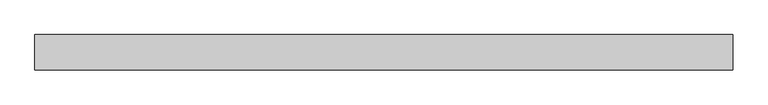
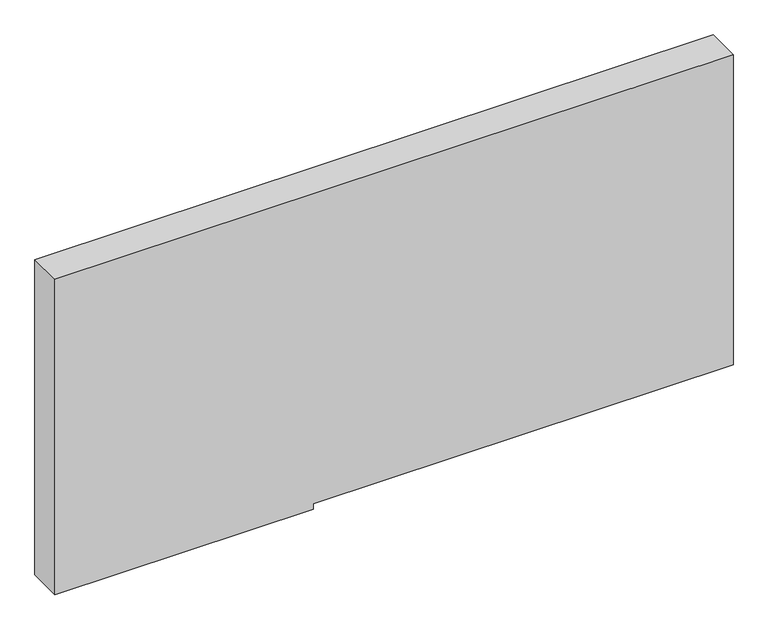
"""IFC4 building model written with IfcOpenShell, lengths in millimetres: plate geometry, Системная панель : Алюкобонд серый."""

from ifc_helpers import new_model, si_unit, frame, origin, place, context, project, spatial, polyline, outline, extrude, source, transform, mapped, element, save


def plate_77154bdb(model_context):
    return source(origin(), model_context, "Body", "SweptSolid", [
        extrude(outline(polyline([(0.0, -590.0), (0.0, -140.4633312), (10.0, -140.4633312), (10.0, 590.0), (580.0, 590.0), (580.0, -590.0), (0.0, -590.0)])), frame((0.0, -10.5, 0.0), z_axis=(0.0, 1.0, 0.0), x_axis=(0.0, 0.0, 1.0)), (0.0, 0.0, 1.0), 60.0),
    ])


if __name__ == "__main__":
    model = new_model("IFC4")
    model_context = context("Model", 3, world=origin())
    ifc_project = project(units=[si_unit("LENGTHUNIT", "METRE", prefix="MILLI")], contexts=[model_context])
    site = spatial("IfcSite", under=ifc_project)
    building = spatial("IfcBuilding", under=site)
    placement = place(None, origin())
    plate_shape = plate_77154bdb(model_context)
    element("IfcPlate", 1, ObjectType="Системная панель : Алюкобонд серый", at=placement, inside=building, context=model_context, shape_type="MappedRepresentation", body=[
        mapped(plate_shape, transform((0.0, 0.0, 0.0), x_axis=(1.0, 0.0, 0.0), y_axis=(0.0, 1.0, 0.0), z_axis=(0.0, 0.0, 1.0))),
    ])
    save(model, "model.ifc")
